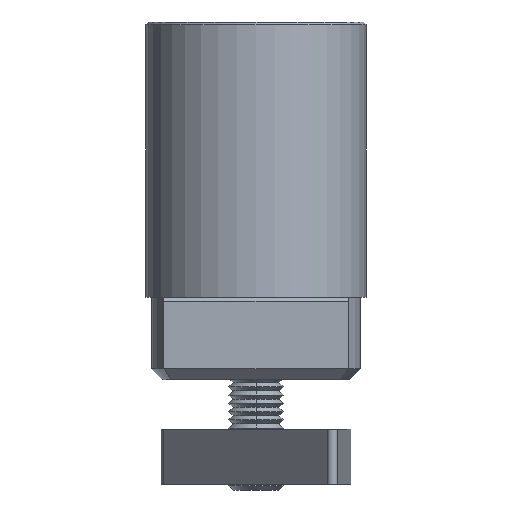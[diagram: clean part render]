
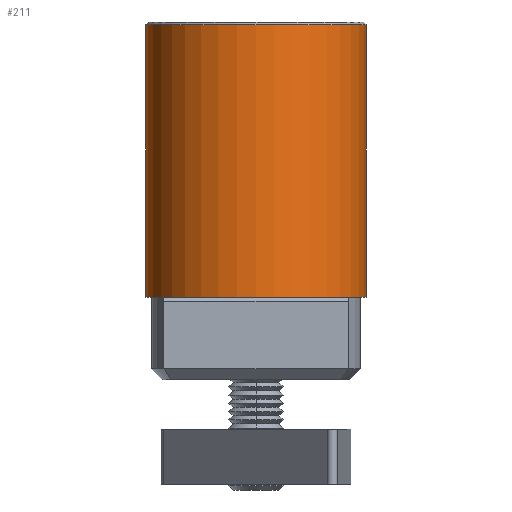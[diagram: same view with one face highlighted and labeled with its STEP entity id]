
A CAD part, front view. The second image highlights one B-rep face of the part: STEP entity #211.
In plain terms, the highlighted cylindrical face has radius 20 mm (diameter 40 mm), a partial arc.
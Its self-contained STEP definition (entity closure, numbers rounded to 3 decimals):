
#23 = VERTEX_POINT ( 'NONE', #817 ) ;
#28 = EDGE_CURVE ( 'NONE', #3596, #29, #812, .T. ) ;
#29 = VERTEX_POINT ( 'NONE', #808 ) ;
#48 = EDGE_CURVE ( 'NONE', #23, #29, #841, .T. ) ;
#195 = EDGE_CURVE ( 'NONE', #3599, #23, #1104, .T. ) ;
#211 = ADVANCED_FACE ( 'NONE', ( #1137 ), #1135, .T. ) ;
#214 = EDGE_LOOP ( 'NONE', ( #217, #218, #216, #219 ) ) ;
#215 = EDGE_CURVE ( 'NONE', #3596, #3599, #1136, .T. ) ;
#216 = ORIENTED_EDGE ( 'NONE', *, *, #195, .T. ) ;
#217 = ORIENTED_EDGE ( 'NONE', *, *, #28, .F. ) ;
#218 = ORIENTED_EDGE ( 'NONE', *, *, #215, .T. ) ;
#219 = ORIENTED_EDGE ( 'NONE', *, *, #48, .T. ) ;
#808 = CARTESIAN_POINT ( 'NONE',  ( 20., 0., 0. ) ) ;
#809 = DIRECTION ( 'NONE',  ( 0., 0., -1. ) ) ;
#810 = VECTOR ( 'NONE', #809, 1000. ) ;
#811 = CARTESIAN_POINT ( 'NONE',  ( 20., 0., 50. ) ) ;
#812 = LINE ( 'NONE', #811, #810 ) ;
#817 = CARTESIAN_POINT ( 'NONE',  ( -20., 0., 0. ) ) ;
#837 = DIRECTION ( 'NONE',  ( 1., 0., 0. ) ) ;
#838 = DIRECTION ( 'NONE',  ( 0., 0., 1. ) ) ;
#839 = CARTESIAN_POINT ( 'NONE',  ( 0., 0., 0. ) ) ;
#840 = AXIS2_PLACEMENT_3D ( 'NONE', #839, #838, #837 ) ;
#841 = CIRCLE ( 'NONE', #840, 20. ) ;
#1100 = DIRECTION ( 'NONE',  ( 0., 0., -1. ) ) ;
#1101 = VECTOR ( 'NONE', #1100, 1000. ) ;
#1102 = CARTESIAN_POINT ( 'NONE',  ( -20., 0., 50. ) ) ;
#1104 = LINE ( 'NONE', #1102, #1101 ) ;
#1127 = DIRECTION ( 'NONE',  ( 1., 0., 0. ) ) ;
#1128 = DIRECTION ( 'NONE',  ( 0., 0., -1. ) ) ;
#1129 = CARTESIAN_POINT ( 'NONE',  ( 0., 0., 49.5 ) ) ;
#1130 = AXIS2_PLACEMENT_3D ( 'NONE', #1129, #1128, #1127 ) ;
#1131 = DIRECTION ( 'NONE',  ( -1., 0., 0. ) ) ;
#1132 = DIRECTION ( 'NONE',  ( 0., 0., -1. ) ) ;
#1133 = CARTESIAN_POINT ( 'NONE',  ( 0., 0., 50. ) ) ;
#1134 = AXIS2_PLACEMENT_3D ( 'NONE', #1133, #1132, #1131 ) ;
#1135 = CYLINDRICAL_SURFACE ( 'NONE', #1134, 20. ) ;
#1136 = CIRCLE ( 'NONE', #1130, 20. ) ;
#1137 = FACE_OUTER_BOUND ( 'NONE', #214, .T. ) ;
#2393 = CARTESIAN_POINT ( 'NONE',  ( -20., 0., 49.5 ) ) ;
#2396 = CARTESIAN_POINT ( 'NONE',  ( 20., 0., 49.5 ) ) ;
#3596 = VERTEX_POINT ( 'NONE', #2396 ) ;
#3599 = VERTEX_POINT ( 'NONE', #2393 ) ;
